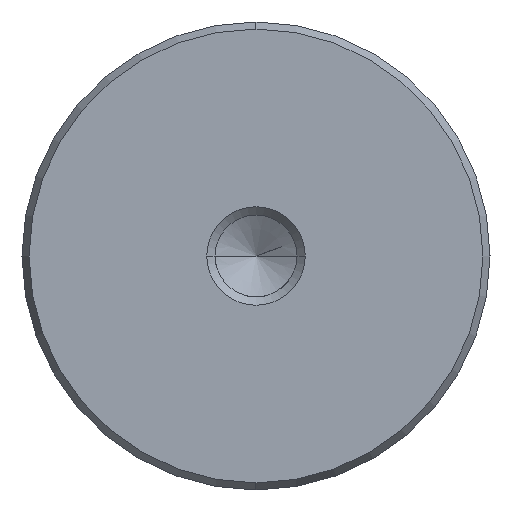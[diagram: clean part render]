
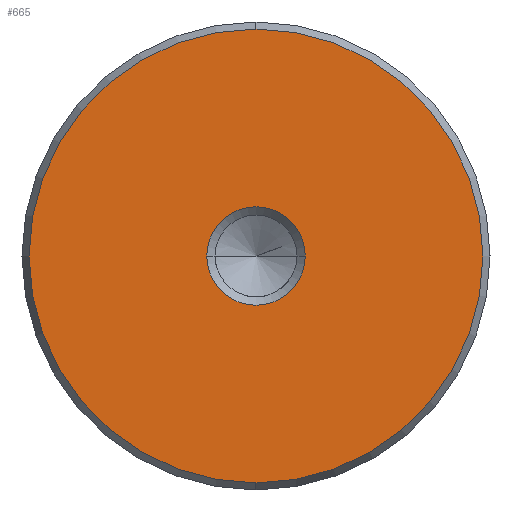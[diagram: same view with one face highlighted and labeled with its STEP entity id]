
A CAD part, left-side view. The second image highlights one B-rep face of the part: STEP entity #665.
In plain terms, the highlighted planar face has unit normal (-1, 0, 0).
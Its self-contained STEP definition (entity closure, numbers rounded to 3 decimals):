
#579=CARTESIAN_POINT('Vertex',(0.,0.,-18.423)) ;
#582=CARTESIAN_POINT('Axis2P3D Location',(0.,0.,0.)) ;
#586=CARTESIAN_POINT('Vertex',(0.,18.423,0.)) ;
#589=CARTESIAN_POINT('Axis2P3D Location',(0.,0.,0.)) ;
#593=CARTESIAN_POINT('Vertex',(0.,0.,18.423)) ;
#615=CARTESIAN_POINT('Axis2P3D Location',(0.,0.,0.)) ;
#619=CARTESIAN_POINT('Vertex',(0.,-18.423,0.)) ;
#622=CARTESIAN_POINT('Axis2P3D Location',(0.,0.,0.)) ;
#636=CARTESIAN_POINT('Axis2P3D Location',(0.,0.,0.)) ;
#647=CARTESIAN_POINT('Axis2P3D Location',(0.,0.,0.)) ;
#651=CARTESIAN_POINT('Vertex',(0.,4.,0.)) ;
#653=CARTESIAN_POINT('Vertex',(0.,-4.,0.)) ;
#656=CARTESIAN_POINT('Axis2P3D Location',(0.,0.,0.)) ;
#583=DIRECTION('Axis2P3D Direction',(1.,0.,-0.)) ;
#590=DIRECTION('Axis2P3D Direction',(1.,0.,-0.)) ;
#616=DIRECTION('Axis2P3D Direction',(1.,0.,-0.)) ;
#623=DIRECTION('Axis2P3D Direction',(1.,0.,-0.)) ;
#637=DIRECTION('Axis2P3D Direction',(1.,0.,-0.)) ;
#638=DIRECTION('Axis2P3D XDirection',(-0.,0.,-1.)) ;
#648=DIRECTION('Axis2P3D Direction',(1.,0.,-0.)) ;
#657=DIRECTION('Axis2P3D Direction',(1.,0.,-0.)) ;
#584=AXIS2_PLACEMENT_3D('Circle Axis2P3D',#582,#583,$) ;
#591=AXIS2_PLACEMENT_3D('Circle Axis2P3D',#589,#590,$) ;
#617=AXIS2_PLACEMENT_3D('Circle Axis2P3D',#615,#616,$) ;
#624=AXIS2_PLACEMENT_3D('Circle Axis2P3D',#622,#623,$) ;
#639=AXIS2_PLACEMENT_3D('Plane Axis2P3D',#636,#637,#638) ;
#649=AXIS2_PLACEMENT_3D('Circle Axis2P3D',#647,#648,$) ;
#658=AXIS2_PLACEMENT_3D('Circle Axis2P3D',#656,#657,$) ;
#642=ORIENTED_EDGE('',*,*,#588,.F.) ;
#643=ORIENTED_EDGE('',*,*,#626,.F.) ;
#644=ORIENTED_EDGE('',*,*,#621,.F.) ;
#645=ORIENTED_EDGE('',*,*,#595,.F.) ;
#662=ORIENTED_EDGE('',*,*,#655,.T.) ;
#663=ORIENTED_EDGE('',*,*,#660,.T.) ;
#664=FACE_BOUND('',#661,.T.) ;
#665=ADVANCED_FACE('720-38x500',(#646,#664),#640,.F.) ;
#585=CIRCLE('generated circle',#584,18.423) ;
#592=CIRCLE('generated circle',#591,18.423) ;
#618=CIRCLE('generated circle',#617,18.423) ;
#625=CIRCLE('generated circle',#624,18.423) ;
#650=CIRCLE('generated circle',#649,4.) ;
#659=CIRCLE('generated circle',#658,4.) ;
#588=EDGE_CURVE('',#580,#587,#585,.T.) ;
#595=EDGE_CURVE('',#587,#594,#592,.T.) ;
#621=EDGE_CURVE('',#594,#620,#618,.T.) ;
#626=EDGE_CURVE('',#620,#580,#625,.T.) ;
#655=EDGE_CURVE('',#652,#654,#650,.T.) ;
#660=EDGE_CURVE('',#654,#652,#659,.T.) ;
#641=EDGE_LOOP('',(#642,#643,#644,#645)) ;
#661=EDGE_LOOP('',(#662,#663)) ;
#646=FACE_OUTER_BOUND('',#641,.T.) ;
#640=PLANE('Plane',#639) ;
#580=VERTEX_POINT('',#579) ;
#587=VERTEX_POINT('',#586) ;
#594=VERTEX_POINT('',#593) ;
#620=VERTEX_POINT('',#619) ;
#652=VERTEX_POINT('',#651) ;
#654=VERTEX_POINT('',#653) ;
